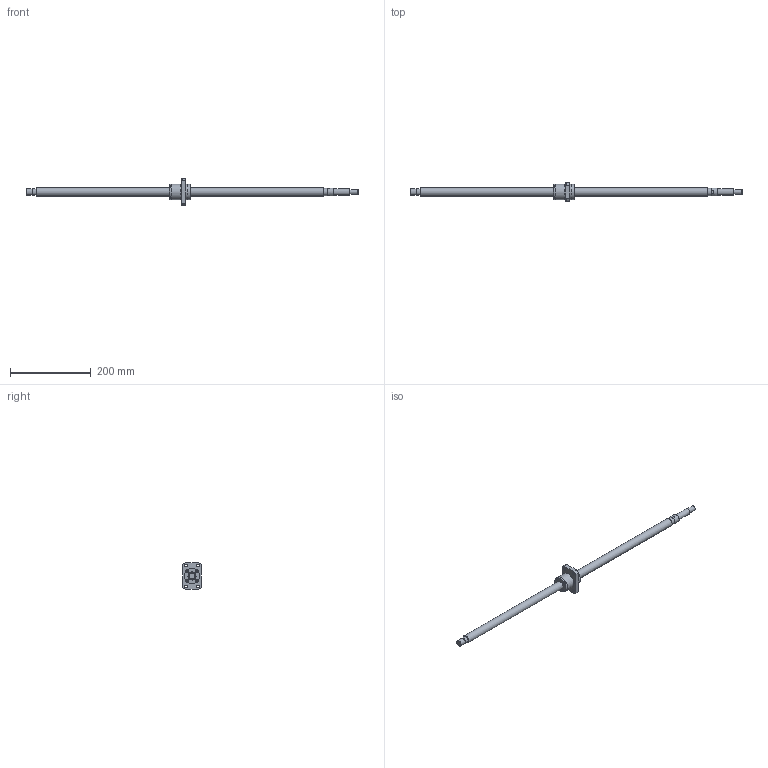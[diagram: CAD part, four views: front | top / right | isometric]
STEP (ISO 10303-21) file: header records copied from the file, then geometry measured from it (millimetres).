
FILE_DESCRIPTION(/* description */ ('STEP AP203'),/* implementation_level */ '2;1');
FILE_NAME(/* name */ 'BNK2020-3.6G0+820LC5Y(3810)',/* time_stamp */ '2024-07-09T09:40:18+02:00',/* author */ ('License CC BY-ND 4.0'),/* organization */ ('CADENAS'),/* preprocessor_version */ 'ST-DEVELOPER v19.3',/* originating_system */ 'PARTsolutions',/* authorisation */ ' ');
FILE_SCHEMA (('CONFIG_CONTROL_DESIGN'));
Length unit declared in the file: millimetre
Products named in the file (3): BNK2020-3.6G0+820LC5Y(3810); BNK 2020-3.6G0+820LC5Y Shaft; BNK 2020-3.6G0+820LC5Y0 Nut
Assembly tree (2 placements, depth 2):
  BNK2020-3.6G0+820LC5Y(3810)
    BNK 2020-3.6G0+820LC5Y Shaft
    BNK 2020-3.6G0+820LC5Y0 Nut
Bounding box: 820 x 46 x 66 mm (x, y, z)
Volume: 302635.1 mm3; surface area: 68214.7 mm2
Topology: 2 solids, 2 shells, 136 faces, 309 edges, 199 vertices
Faces by surface type: plane 75, cylinder 35, cone 20, torus 6
Full cylindrical faces by diameter (mm): 5.188 x1, 5.5 x4, 6.6 x4, 11 x4, 12 x1, 14.3 x1, 15 x3, 18 x1, 19.5 x1, 20 x2, 35.1 x1, 38 x2, 39 x2
Entity records: 3695 total; most frequent: CARTESIAN_POINT 671, DIRECTION 626, ORIENTED_EDGE 528, EDGE_CURVE 264, AXIS2_PLACEMENT_3D 247, FACE_BOUND 210, EDGE_LOOP 209, VERTEX_POINT 196
